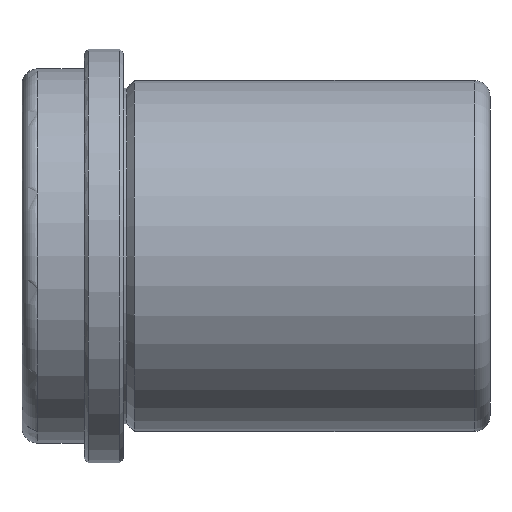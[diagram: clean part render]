
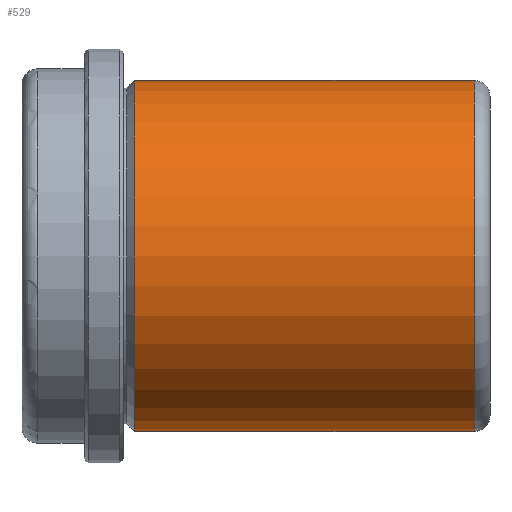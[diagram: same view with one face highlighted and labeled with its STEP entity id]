
A CAD part, front view. The second image highlights one B-rep face of the part: STEP entity #529.
In plain terms, the highlighted cylindrical face has radius 22.5 mm (diameter 45 mm), a partial arc.
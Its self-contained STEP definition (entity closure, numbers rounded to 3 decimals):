
#318=CARTESIAN_POINT('Line Origine',(47.,0.,22.5)) ;
#322=CARTESIAN_POINT('Vertex',(45.,0.,22.5)) ;
#324=CARTESIAN_POINT('Vertex',(1.414,0.,22.5)) ;
#338=CARTESIAN_POINT('Vertex',(45.,0.,-22.5)) ;
#341=CARTESIAN_POINT('Line Origine',(47.,0.,-22.5)) ;
#345=CARTESIAN_POINT('Vertex',(1.414,0.,-22.5)) ;
#492=CARTESIAN_POINT('Axis2P3D Location',(47.,0.,0.)) ;
#497=CARTESIAN_POINT('Axis2P3D Location',(45.,0.,0.)) ;
#501=CARTESIAN_POINT('Vertex',(45.,-22.5,0.)) ;
#504=CARTESIAN_POINT('Axis2P3D Location',(45.,0.,0.)) ;
#509=CARTESIAN_POINT('Axis2P3D Location',(1.414,0.,0.)) ;
#513=CARTESIAN_POINT('Vertex',(1.414,-22.5,0.)) ;
#516=CARTESIAN_POINT('Axis2P3D Location',(1.414,0.,0.)) ;
#319=DIRECTION('Vector Direction',(-1.,0.,0.)) ;
#342=DIRECTION('Vector Direction',(-1.,0.,0.)) ;
#493=DIRECTION('Axis2P3D Direction',(-1.,-0.,-0.)) ;
#494=DIRECTION('Axis2P3D XDirection',(0.,0.,-1.)) ;
#498=DIRECTION('Axis2P3D Direction',(-1.,-0.,-0.)) ;
#505=DIRECTION('Axis2P3D Direction',(-1.,-0.,-0.)) ;
#510=DIRECTION('Axis2P3D Direction',(-1.,-0.,-0.)) ;
#517=DIRECTION('Axis2P3D Direction',(-1.,-0.,-0.)) ;
#495=AXIS2_PLACEMENT_3D('Cylinder Axis2P3D',#492,#493,#494) ;
#499=AXIS2_PLACEMENT_3D('Circle Axis2P3D',#497,#498,$) ;
#506=AXIS2_PLACEMENT_3D('Circle Axis2P3D',#504,#505,$) ;
#511=AXIS2_PLACEMENT_3D('Circle Axis2P3D',#509,#510,$) ;
#518=AXIS2_PLACEMENT_3D('Circle Axis2P3D',#516,#517,$) ;
#522=ORIENTED_EDGE('',*,*,#347,.T.) ;
#523=ORIENTED_EDGE('',*,*,#503,.F.) ;
#524=ORIENTED_EDGE('',*,*,#508,.F.) ;
#525=ORIENTED_EDGE('',*,*,#326,.T.) ;
#526=ORIENTED_EDGE('',*,*,#515,.T.) ;
#527=ORIENTED_EDGE('',*,*,#520,.T.) ;
#320=VECTOR('Line Direction',#319,1.) ;
#343=VECTOR('Line Direction',#342,1.) ;
#529=ADVANCED_FACE('FAMO-SF1-B32 x 60',(#528),#496,.T.) ;
#500=CIRCLE('generated circle',#499,22.5) ;
#507=CIRCLE('generated circle',#506,22.5) ;
#512=CIRCLE('generated circle',#511,22.5) ;
#519=CIRCLE('generated circle',#518,22.5) ;
#496=CYLINDRICAL_SURFACE('generated cylinder',#495,22.5) ;
#326=EDGE_CURVE('',#323,#325,#321,.T.) ;
#347=EDGE_CURVE('',#346,#339,#344,.F.) ;
#503=EDGE_CURVE('',#502,#339,#500,.F.) ;
#508=EDGE_CURVE('',#323,#502,#507,.F.) ;
#515=EDGE_CURVE('',#325,#514,#512,.F.) ;
#520=EDGE_CURVE('',#514,#346,#519,.F.) ;
#521=EDGE_LOOP('',(#522,#523,#524,#525,#526,#527)) ;
#528=FACE_OUTER_BOUND('',#521,.T.) ;
#321=LINE('Line',#318,#320) ;
#344=LINE('Line',#341,#343) ;
#323=VERTEX_POINT('',#322) ;
#325=VERTEX_POINT('',#324) ;
#339=VERTEX_POINT('',#338) ;
#346=VERTEX_POINT('',#345) ;
#502=VERTEX_POINT('',#501) ;
#514=VERTEX_POINT('',#513) ;
